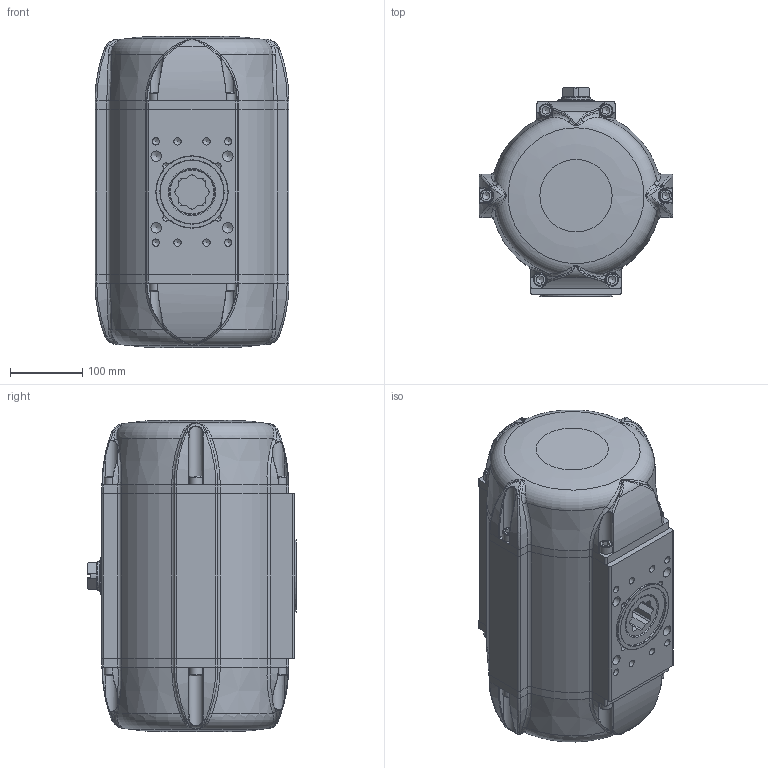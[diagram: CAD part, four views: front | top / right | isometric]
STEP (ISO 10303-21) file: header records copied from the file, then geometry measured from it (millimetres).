
FILE_DESCRIPTION((''),'2;1');
FILE_NAME('Z:\DOKUMENTATION ANTRIEBSPROGRAMM\Antriebe (neu)\BR16_SAD_SAF_90°\STEP-Dateien\40\SAF_40_BR16.stp','2017-06-20T10:44:52',('vmi'),(''),'Autodesk Inventor 2013','Autodesk Inventor 2013','');
FILE_SCHEMA(('AUTOMOTIVE_DESIGN { 1 0 10303 214 1 1 1 1 }'));
Length unit declared in the file: millimetre
Products named in the file (1): ENG-084418_Shrinkwrap_1
Bounding box: 268 x 289 x 430 mm (x, y, z)
Surface area: 537340.6 mm2 (no closed solid volume)
Topology: 0 solids, 36 shells, 510 faces, 1728 edges, 1201 vertices
Faces by surface type: cylinder 174, plane 165, bspline 98, cone 49, torus 24
Full cylindrical faces by diameter (mm): 4.134 x8, 4.917 x1, 8.376 x6, 10.106 x8, 11.445 x2, 14.376 x4, 18 x12, 37 x1, 39.8 x1, 45 x1, 88 x1, 100 x1
Entity records: 27657 total; most frequent: CARTESIAN_POINT 14236, ORIENTED_EDGE 2487, DIRECTION 2221, EDGE_CURVE 1569, VERTEX_POINT 1154, AXIS2_PLACEMENT_3D 852, EDGE_LOOP 669, VECTOR 517
